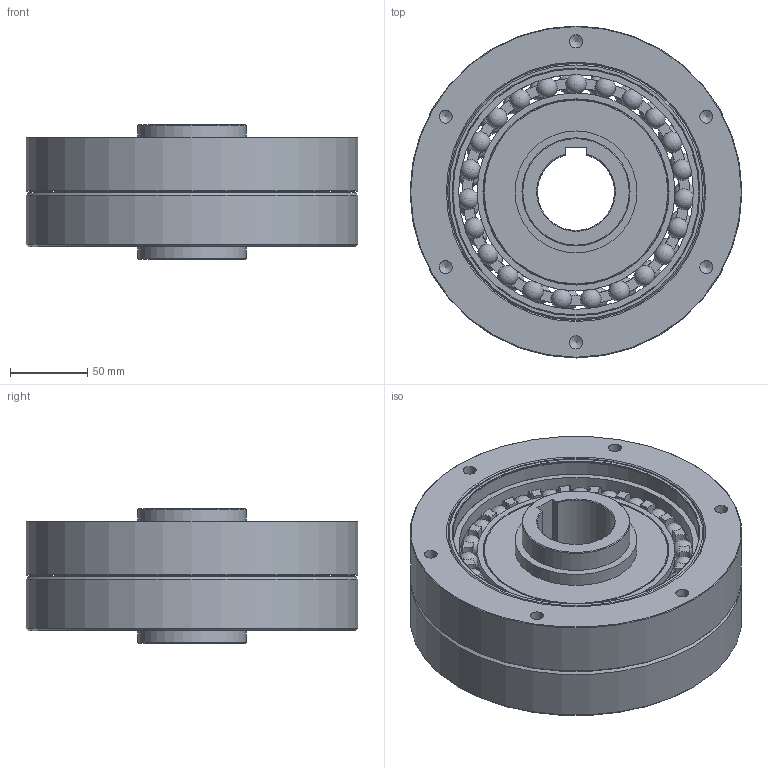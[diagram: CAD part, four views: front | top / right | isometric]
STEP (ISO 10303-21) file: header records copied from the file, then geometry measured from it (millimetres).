
FILE_DESCRIPTION (( 'STEP AP203' ), '1' );
FILE_NAME ('FDS-65-XXX-CJ.STEP', '2024-11-15T01:32:58', ( '微软用户' ), ( '微软中国' ), 'SwSTEP 2.0', 'SolidWorks 2016', '' );
FILE_SCHEMA (( 'CONFIG_CONTROL_DESIGN' ));
Length unit declared in the file: millimetre
Products named in the file (1): FDS-65-XXX-CJ
Bounding box: 215 x 215 x 87 mm (x, y, z)
Volume: 1838086.8 mm3; surface area: 427151.8 mm2
Topology: 58 solids, 58 shells, 343 faces, 916 edges, 599 vertices
Faces by surface type: cylinder 136, plane 117, sphere 46, cone 30, torus 14
Full cylindrical faces by diameter (mm): 8.5 x12, 70 x2, 79 x2, 120 x3, 128.2 x4, 134 x2, 147 x2, 152.1 x4, 160 x3, 166.5 x3, 215 x2
Entity records: 9183 total; most frequent: DIRECTION 1826, CARTESIAN_POINT 1506, ORIENTED_EDGE 1340, AXIS2_PLACEMENT_3D 816, EDGE_CURVE 670, VERTEX_POINT 480, CIRCLE 472, EDGE_LOOP 400
